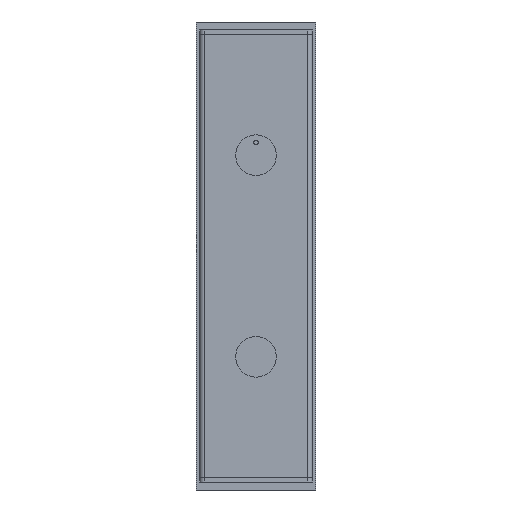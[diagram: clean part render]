
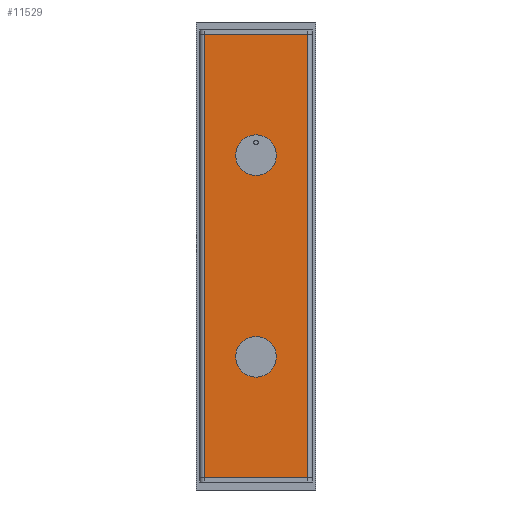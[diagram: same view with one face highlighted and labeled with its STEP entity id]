
A CAD part, front view. The second image highlights one B-rep face of the part: STEP entity #11529.
In plain terms, the highlighted planar face has unit normal (0, -1, 0).
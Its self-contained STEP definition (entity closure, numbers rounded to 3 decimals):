
#9119=DIRECTION('',(1.,0.,0.));
#9120=VECTOR('',#9119,72.);
#9121=CARTESIAN_POINT('',(7662.499,4612.843,-154.));
#9122=LINE('',#9121,#9120);
#9306=DIRECTION('',(-1.,0.,0.));
#9307=VECTOR('',#9306,72.);
#9308=CARTESIAN_POINT('',(7734.499,4612.843,154.));
#9309=LINE('',#9308,#9307);
#9814=DIRECTION('',(0.,0.,1.));
#9815=VECTOR('',#9814,308.);
#9816=CARTESIAN_POINT('',(7734.499,4612.843,-154.));
#9817=LINE('',#9816,#9815);
#9822=CARTESIAN_POINT('',(7698.499,4612.843,70.));
#9823=DIRECTION('',(0.,-1.,0.));
#9824=DIRECTION('',(0.,0.,-1.));
#9825=AXIS2_PLACEMENT_3D('',#9822,#9823,#9824);
#9827=CARTESIAN_POINT('',(7698.499,4612.843,70.));
#9828=DIRECTION('',(0.,-1.,0.));
#9829=DIRECTION('',(0.,0.,1.));
#9830=AXIS2_PLACEMENT_3D('',#9827,#9828,#9829);
#9832=CARTESIAN_POINT('',(7698.499,4612.843,-70.));
#9833=DIRECTION('',(0.,-1.,0.));
#9834=DIRECTION('',(0.,0.,-1.));
#9835=AXIS2_PLACEMENT_3D('',#9832,#9833,#9834);
#9837=CARTESIAN_POINT('',(7698.499,4612.843,-70.));
#9838=DIRECTION('',(0.,-1.,0.));
#9839=DIRECTION('',(0.,0.,1.));
#9840=AXIS2_PLACEMENT_3D('',#9837,#9838,#9839);
#9846=DIRECTION('',(0.,0.,-1.));
#9847=VECTOR('',#9846,308.);
#9848=CARTESIAN_POINT('',(7662.499,4612.843,154.));
#9849=LINE('',#9848,#9847);
#10426=CARTESIAN_POINT('',(7662.499,4612.843,-154.));
#10427=VERTEX_POINT('',#10426);
#10428=CARTESIAN_POINT('',(7734.499,4612.843,-154.));
#10429=VERTEX_POINT('',#10428);
#10522=CARTESIAN_POINT('',(7734.499,4612.843,154.));
#10523=VERTEX_POINT('',#10522);
#10524=CARTESIAN_POINT('',(7662.499,4612.843,154.));
#10525=VERTEX_POINT('',#10524);
#10690=CARTESIAN_POINT('',(7698.499,4612.843,55.9));
#10691=CARTESIAN_POINT('',(7698.499,4612.843,84.1));
#10692=VERTEX_POINT('',#10690);
#10693=VERTEX_POINT('',#10691);
#10694=CARTESIAN_POINT('',(7698.499,4612.843,-84.1));
#10695=CARTESIAN_POINT('',(7698.499,4612.843,-55.9));
#10696=VERTEX_POINT('',#10694);
#10697=VERTEX_POINT('',#10695);
#11505=CARTESIAN_POINT('',(7662.499,4612.843,-509.));
#11506=DIRECTION('',(0.,-1.,0.));
#11507=DIRECTION('',(1.,0.,0.));
#11508=AXIS2_PLACEMENT_3D('',#11505,#11506,#11507);
#11509=PLANE('',#11508);
#11510=ORIENTED_EDGE('',*,*,#11028,.F.);
#11511=ORIENTED_EDGE('',*,*,#11498,.F.);
#11512=ORIENTED_EDGE('',*,*,#10910,.F.);
#11514=ORIENTED_EDGE('',*,*,#11513,.F.);
#11515=EDGE_LOOP('',(#11510,#11511,#11512,#11514));
#11516=FACE_OUTER_BOUND('',#11515,.F.);
#11518=ORIENTED_EDGE('',*,*,#11517,.T.);
#11520=ORIENTED_EDGE('',*,*,#11519,.T.);
#11521=EDGE_LOOP('',(#11518,#11520));
#11522=FACE_BOUND('',#11521,.F.);
#11524=ORIENTED_EDGE('',*,*,#11523,.T.);
#11526=ORIENTED_EDGE('',*,*,#11525,.T.);
#11527=EDGE_LOOP('',(#11524,#11526));
#11528=FACE_BOUND('',#11527,.F.);
#11529=ADVANCED_FACE('',(#11516,#11522,#11528),#11509,.T.);
#9826=CIRCLE('',#9825,14.1);
#9831=CIRCLE('',#9830,14.1);
#9836=CIRCLE('',#9835,14.1);
#9841=CIRCLE('',#9840,14.1);
#10910=EDGE_CURVE('',#10427,#10429,#9122,.T.);
#11028=EDGE_CURVE('',#10523,#10525,#9309,.T.);
#11498=EDGE_CURVE('',#10429,#10523,#9817,.T.);
#11513=EDGE_CURVE('',#10525,#10427,#9849,.T.);
#11517=EDGE_CURVE('',#10692,#10693,#9826,.T.);
#11519=EDGE_CURVE('',#10693,#10692,#9831,.T.);
#11523=EDGE_CURVE('',#10696,#10697,#9836,.T.);
#11525=EDGE_CURVE('',#10697,#10696,#9841,.T.);
